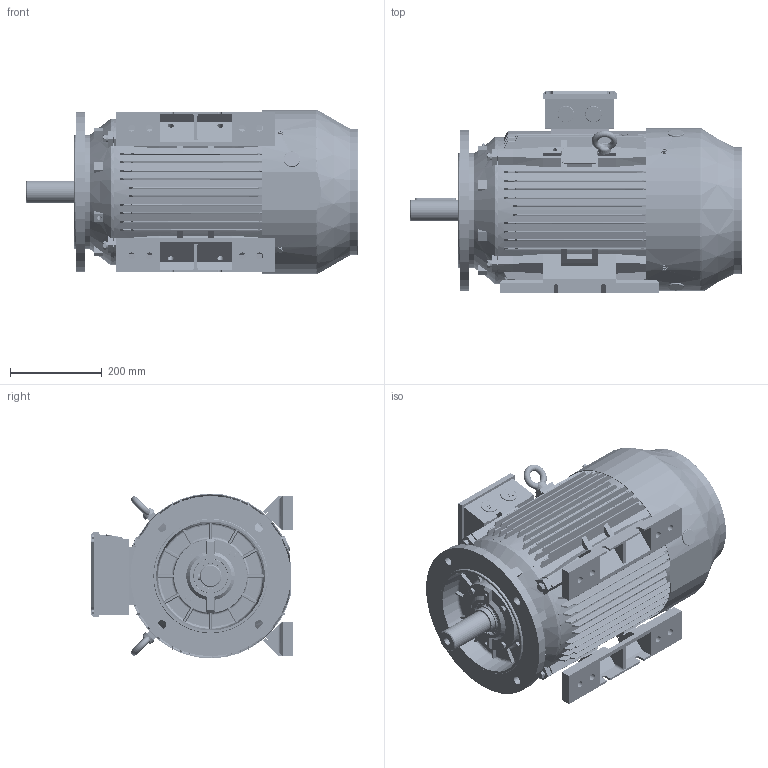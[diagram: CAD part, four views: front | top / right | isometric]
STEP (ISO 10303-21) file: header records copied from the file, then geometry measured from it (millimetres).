
FILE_DESCRIPTION (( 'STEP AP214' ), '1' );
FILE_NAME ('BCT4110.18H835.11.step', '2020-04-23T15:42:51', ( '' ), ( '' ), 'SwSTEP 2.0', 'SolidWorks 2019', '' );
FILE_SCHEMA (( 'AUTOMOTIVE_DESIGN' ));
Length unit declared in the file: millimetre
Products named in the file (1): BCT4110.18H835.11
Bounding box: 725 x 441 x 359.96 mm (x, y, z)
Volume: 13073580.7 mm3; surface area: 3440814.9 mm2
Topology: 53 solids, 53 shells, 6881 faces, 19545 edges, 12725 vertices
Faces by surface type: plane 3226, cylinder 2598, cone 370, torus 294, bspline 211, sphere 182
Entity records: 257850 total; most frequent: CARTESIAN_POINT 76617, ORIENTED_EDGE 38750, DIRECTION 36855, EDGE_CURVE 19375, AXIS2_PLACEMENT_3D 12948, VERTEX_POINT 12673, LINE 10959, VECTOR 10959
